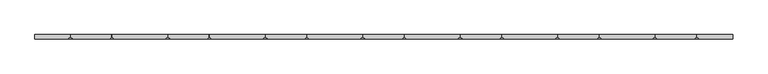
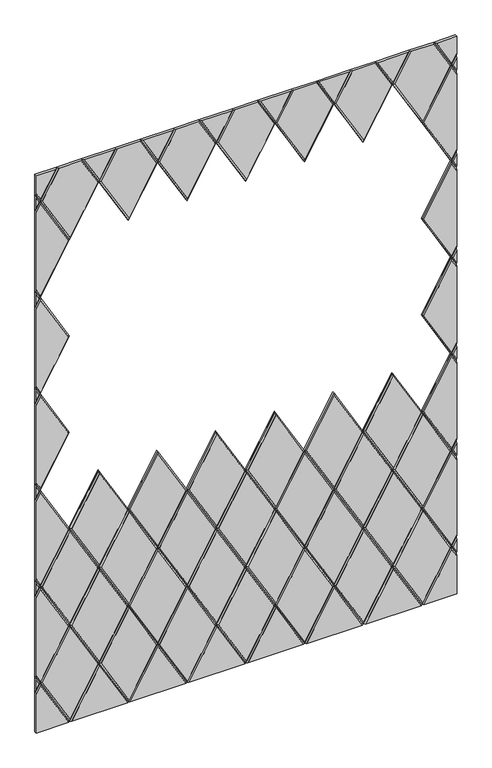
"""IFC4 building model written with IfcOpenShell, lengths in millimetres: proxy geometry, Wall_Cissu 7.3dm."""

from ifc_helpers import new_model, si_unit, origin, place, context, project, spatial, faceted_brep, source, transform, mapped, element, save


def generic_models_ffa9f1a6(model_context):
    return source(origin(), model_context, "Body", "Brep", [
        faceted_brep([(9016.0, 6.0, 2800.0), (9117.0188674, 6.0, 2800.0), (9037.1381137, 6.0, 2661.642476), (9016.0, 6.0, 2698.2547628), (9016.0, 0.0, 2698.2547628), (9037.1381137, 0.0, 2661.642476), (9016.0, -6.0, 2710.2547628), (9037.1381137, -6.0, 2673.642476), (9016.0, -6.0, 2800.0), (9110.0906642, -6.0, 2800.0), (9117.0188674, 0.0, 2800.0)], [[[0, 1, 2, 3]], [[4, 3, 2, 5]], [[6, 4, 5, 7]], [[8, 9, 10, 1, 0]], [[10, 5, 2, 1]], [[8, 6, 7, 9]], [[9, 7, 5, 10]], [[0, 3, 4, 6, 8]]]),
        faceted_brep([(9236.6573599, 6.0, 2800.0), (9396.4188674, 6.0, 2800.0), (9316.5381137, 6.0, 2661.642476), (9316.5381137, 0.0, 2661.642476), (9236.6573599, 0.0, 2800.0), (9396.4188674, 0.0, 2800.0), (9243.5855632, -6.0, 2800.0), (9316.5381137, -6.0, 2673.642476), (9389.4906642, -6.0, 2800.0)], [[[0, 1, 2]], [[0, 2, 3, 4]], [[5, 3, 2, 1]], [[6, 7, 8]], [[4, 3, 7, 6]], [[8, 7, 3, 5]], [[0, 4, 6, 8, 5, 1]]]),
        faceted_brep([(9516.0573599, 6.0, 2800.0), (9675.8188674, 6.0, 2800.0), (9595.9381137, 6.0, 2661.642476), (9595.9381137, 0.0, 2661.642476), (9516.0573599, 0.0, 2800.0), (9675.8188674, 0.0, 2800.0), (9522.9855632, -6.0, 2800.0), (9595.9381137, -6.0, 2673.642476), (9668.8906642, -6.0, 2800.0)], [[[0, 1, 2]], [[0, 2, 3, 4]], [[5, 3, 2, 1]], [[6, 7, 8]], [[4, 3, 7, 6]], [[8, 7, 3, 5]], [[0, 4, 6, 8, 5, 1]]]),
        faceted_brep([(9795.4573599, 6.0, 2800.0), (9955.2188674, 6.0, 2800.0), (9875.3381137, 6.0, 2661.642476), (9875.3381137, 0.0, 2661.642476), (9795.4573599, 0.0, 2800.0), (9955.2188674, 0.0, 2800.0), (9802.3855632, -6.0, 2800.0), (9875.3381137, -6.0, 2673.642476), (9948.2906642, -6.0, 2800.0)], [[[0, 1, 2]], [[0, 2, 3, 4]], [[5, 3, 2, 1]], [[6, 7, 8]], [[4, 3, 7, 6]], [[8, 7, 3, 5]], [[0, 4, 6, 8, 5, 1]]]),
        faceted_brep([(10074.8573599, 6.0, 2800.0), (10234.6188674, 6.0, 2800.0), (10154.7381137, 6.0, 2661.642476), (10154.7381137, 0.0, 2661.642476), (10074.8573599, 0.0, 2800.0), (10234.6188674, 0.0, 2800.0), (10081.7855632, -6.0, 2800.0), (10154.7381137, -6.0, 2673.642476), (10227.6906642, -6.0, 2800.0)], [[[0, 1, 2]], [[0, 2, 3, 4]], [[5, 3, 2, 1]], [[6, 7, 8]], [[4, 3, 7, 6]], [[8, 7, 3, 5]], [[0, 4, 6, 8, 5, 1]]]),
        faceted_brep([(10354.2573599, 6.0, 2800.0), (10514.0188674, 6.0, 2800.0), (10434.1381137, 6.0, 2661.642476), (10434.1381137, 0.0, 2661.642476), (10354.2573599, 0.0, 2800.0), (10514.0188674, 0.0, 2800.0), (10361.1855632, -6.0, 2800.0), (10434.1381137, -6.0, 2673.642476), (10507.0906642, -6.0, 2800.0)], [[[0, 1, 2]], [[0, 2, 3, 4]], [[5, 3, 2, 1]], [[6, 7, 8]], [[4, 3, 7, 6]], [[8, 7, 3, 5]], [[0, 4, 6, 8, 5, 1]]]),
        faceted_brep([(10633.6573599, 6.0, 2800.0), (10793.4188674, 6.0, 2800.0), (10713.5381137, 6.0, 2661.642476), (10713.5381137, 0.0, 2661.642476), (10633.6573599, 0.0, 2800.0), (10793.4188674, 0.0, 2800.0), (10640.5855632, -6.0, 2800.0), (10713.5381137, -6.0, 2673.642476), (10786.4906642, -6.0, 2800.0)], [[[0, 1, 2]], [[0, 2, 3, 4]], [[5, 3, 2, 1]], [[6, 7, 8]], [[4, 3, 7, 6]], [[8, 7, 3, 5]], [[0, 4, 6, 8, 5, 1]]]),
        faceted_brep([(11016.0, 6.0, 2701.5868349), (10992.9381137, 6.0, 2661.642476), (10913.0573599, 6.0, 2800.0), (11016.0, 6.0, 2800.0), (11016.0, 0.0, 2701.5868349), (10992.9381137, 0.0, 2661.642476), (11016.0, -6.0, 2713.5868349), (10992.9381137, -6.0, 2673.642476), (10919.9855632, -6.0, 2800.0), (11016.0, -6.0, 2800.0), (10913.0573599, 0.0, 2800.0)], [[[0, 1, 2, 3]], [[0, 4, 5, 1]], [[4, 6, 7, 5]], [[8, 9, 3, 2, 10]], [[2, 1, 5, 10]], [[8, 7, 6, 9]], [[10, 5, 7, 8]], [[0, 3, 9, 6, 4]]]),
        faceted_brep([(9016.0, 6.0, 2625.0301892), (9037.1381137, 6.0, 2661.642476), (9176.8381137, 6.0, 2419.6749782), (9037.1381137, 6.0, 2177.7074804), (9016.0, 6.0, 2214.3197672), (9016.0, 0.0, 2214.3197672), (9037.1381137, 0.0, 2177.7074804), (9176.8381137, 0.0, 2419.6749782), (9037.1381137, 0.0, 2661.642476), (9016.0, 0.0, 2625.0301892), (9016.0, -6.0, 2613.0301892), (9016.0, -6.0, 2226.3197672), (9037.1381137, -6.0, 2189.7074804), (9169.9099104, -6.0, 2419.6749782), (9037.1381137, -6.0, 2649.642476)], [[[0, 1, 2, 3, 4]], [[5, 4, 3, 6]], [[6, 3, 2, 7]], [[7, 2, 1, 8]], [[0, 9, 8, 1]], [[10, 11, 12, 13, 14]], [[11, 5, 6, 12]], [[6, 7, 13, 12]], [[7, 8, 14, 13]], [[9, 10, 14, 8]], [[0, 4, 5, 11, 10, 9]]]),
        faceted_brep([(11016.0, 6.0, 2217.6518392), (10992.9381137, 6.0, 2177.7074804), (10853.2381137, 6.0, 2419.6749782), (10992.9381137, 6.0, 2661.642476), (11016.0, 6.0, 2621.6981171), (10853.2381137, 0.0, 2419.6749782), (10992.9381137, 0.0, 2177.7074804), (11016.0, 0.0, 2217.6518392), (11016.0, 0.0, 2621.6981171), (10992.9381137, 0.0, 2661.642476), (11016.0, -6.0, 2229.6518392), (11016.0, -6.0, 2609.6981171), (10992.9381137, -6.0, 2649.642476), (10860.1663169, -6.0, 2419.6749782), (10992.9381137, -6.0, 2189.7074804)], [[[0, 1, 2, 3, 4]], [[5, 2, 1, 6]], [[0, 7, 6, 1]], [[8, 4, 3, 9]], [[9, 3, 2, 5]], [[10, 11, 12, 13, 14]], [[5, 6, 14, 13]], [[7, 10, 14, 6]], [[11, 8, 9, 12]], [[9, 5, 13, 12]], [[0, 4, 8, 11, 10, 7]]]),
        faceted_brep([(9016.0, 6.0, 2698.2547628), (9037.1381137, 6.0, 2661.642476), (9016.0, 6.0, 2625.0301892), (9016.0, 0.0, 2625.0301892), (9037.1381137, 0.0, 2661.642476), (9016.0, 0.0, 2698.2547628), (9016.0, -6.0, 2686.2547628), (9016.0, -6.0, 2637.0301892), (9030.2099104, -6.0, 2661.642476)], [[[0, 1, 2]], [[3, 2, 1, 4]], [[0, 5, 4, 1]], [[6, 7, 8]], [[7, 3, 4, 8]], [[5, 6, 8, 4]], [[0, 2, 3, 7, 6, 5]]]),
        faceted_brep([(11016.0, 6.0, 2621.6981171), (10992.9381137, 6.0, 2661.642476), (11016.0, 6.0, 2701.5868349), (11016.0, 0.0, 2621.6981171), (10992.9381137, 0.0, 2661.642476), (11016.0, 0.0, 2701.5868349), (11016.0, -6.0, 2633.6981171), (11016.0, -6.0, 2689.5868349), (10999.8663169, -6.0, 2661.642476)], [[[0, 1, 2]], [[0, 3, 4, 1]], [[5, 2, 1, 4]], [[6, 7, 8]], [[3, 6, 8, 4]], [[7, 5, 4, 8]], [[0, 2, 5, 7, 6, 3]]]),
        faceted_brep([(11016.0, 6.0, 2137.7631215), (10992.9381137, 6.0, 2177.7074804), (11016.0, 6.0, 2217.6518392), (11016.0, 0.0, 2137.7631215), (10992.9381137, 0.0, 2177.7074804), (11016.0, 0.0, 2217.6518392), (11016.0, -6.0, 2149.7631215), (11016.0, -6.0, 2205.6518392), (10999.8663169, -6.0, 2177.7074804)], [[[0, 1, 2]], [[0, 3, 4, 1]], [[5, 2, 1, 4]], [[6, 7, 8]], [[3, 6, 8, 4]], [[7, 5, 4, 8]], [[0, 2, 5, 7, 6, 3]]]),
        faceted_brep([(9016.0, 6.0, 2214.3197672), (9037.1381137, 6.0, 2177.7074804), (9016.0, 6.0, 2141.0951935), (9016.0, 0.0, 2141.0951935), (9037.1381137, 0.0, 2177.7074804), (9016.0, 0.0, 2214.3197672), (9016.0, -6.0, 2202.3197672), (9016.0, -6.0, 2153.0951935), (9030.2099104, -6.0, 2177.7074804)], [[[0, 1, 2]], [[3, 2, 1, 4]], [[0, 5, 4, 1]], [[6, 7, 8]], [[7, 3, 4, 8]], [[5, 6, 8, 4]], [[0, 2, 3, 7, 6, 5]]]),
        faceted_brep([(9016.0, 6.0, 2141.0951935), (9037.1381137, 6.0, 2177.7074804), (9176.8381137, 6.0, 1935.7399825), (9037.1381137, 6.0, 1693.7724847), (9016.0, 6.0, 1730.3847716), (9016.0, 0.0, 1730.3847716), (9037.1381137, 0.0, 1693.7724847), (9176.8381137, 0.0, 1935.7399825), (9037.1381137, 0.0, 2177.7074804), (9016.0, 0.0, 2141.0951935), (9016.0, -6.0, 2129.0951935), (9016.0, -6.0, 1742.3847716), (9037.1381137, -6.0, 1705.7724847), (9169.9099104, -6.0, 1935.7399825), (9037.1381137, -6.0, 2165.7074804)], [[[0, 1, 2, 3, 4]], [[5, 4, 3, 6]], [[6, 3, 2, 7]], [[7, 2, 1, 8]], [[0, 9, 8, 1]], [[10, 11, 12, 13, 14]], [[11, 5, 6, 12]], [[6, 7, 13, 12]], [[7, 8, 14, 13]], [[9, 10, 14, 8]], [[0, 4, 5, 11, 10, 9]]]),
        faceted_brep([(11016.0, 6.0, 1733.7168436), (10992.9381137, 6.0, 1693.7724847), (10853.2381137, 6.0, 1935.7399825), (10992.9381137, 6.0, 2177.7074804), (11016.0, 6.0, 2137.7631215), (10853.2381137, 0.0, 1935.7399825), (10992.9381137, 0.0, 1693.7724847), (11016.0, 0.0, 1733.7168436), (11016.0, 0.0, 2137.7631215), (10992.9381137, 0.0, 2177.7074804), (11016.0, -6.0, 1745.7168436), (11016.0, -6.0, 2125.7631215), (10992.9381137, -6.0, 2165.7074804), (10860.1663169, -6.0, 1935.7399825), (10992.9381137, -6.0, 1705.7724847)], [[[0, 1, 2, 3, 4]], [[5, 2, 1, 6]], [[0, 7, 6, 1]], [[8, 4, 3, 9]], [[9, 3, 2, 5]], [[10, 11, 12, 13, 14]], [[5, 6, 14, 13]], [[7, 10, 14, 6]], [[11, 8, 9, 12]], [[9, 5, 13, 12]], [[0, 4, 8, 11, 10, 7]]]),
        faceted_brep([(9016.0, 6.0, 1657.1601979), (9037.1381137, 6.0, 1693.7724847), (9176.8381137, 6.0, 1451.8049869), (9037.1381137, 6.0, 1209.8374891), (9016.0, 6.0, 1246.4497759), (9016.0, 0.0, 1246.4497759), (9037.1381137, 0.0, 1209.8374891), (9176.8381137, 0.0, 1451.8049869), (9037.1381137, 0.0, 1693.7724847), (9016.0, 0.0, 1657.1601979), (9016.0, -6.0, 1645.1601979), (9016.0, -6.0, 1258.4497759), (9037.1381137, -6.0, 1221.8374891), (9169.9099104, -6.0, 1451.8049869), (9037.1381137, -6.0, 1681.7724847)], [[[0, 1, 2, 3, 4]], [[5, 4, 3, 6]], [[6, 3, 2, 7]], [[7, 2, 1, 8]], [[0, 9, 8, 1]], [[10, 11, 12, 13, 14]], [[11, 5, 6, 12]], [[6, 7, 13, 12]], [[7, 8, 14, 13]], [[9, 10, 14, 8]], [[0, 4, 5, 11, 10, 9]]]),
        faceted_brep([(11016.0, 6.0, 1249.781848), (10992.9381137, 6.0, 1209.8374891), (10853.2381137, 6.0, 1451.8049869), (10992.9381137, 6.0, 1693.7724847), (11016.0, 6.0, 1653.8281259), (10853.2381137, 0.0, 1451.8049869), (10992.9381137, 0.0, 1209.8374891), (11016.0, 0.0, 1249.781848), (11016.0, 0.0, 1653.8281259), (10992.9381137, 0.0, 1693.7724847), (11016.0, -6.0, 1261.781848), (11016.0, -6.0, 1641.8281259), (10992.9381137, -6.0, 1681.7724847), (10860.1663169, -6.0, 1451.8049869), (10992.9381137, -6.0, 1221.8374891)], [[[0, 1, 2, 3, 4]], [[5, 2, 1, 6]], [[0, 7, 6, 1]], [[8, 4, 3, 9]], [[9, 3, 2, 5]], [[10, 11, 12, 13, 14]], [[5, 6, 14, 13]], [[7, 10, 14, 6]], [[11, 8, 9, 12]], [[9, 5, 13, 12]], [[0, 4, 8, 11, 10, 7]]]),
        faceted_brep([(9016.0, 6.0, 1730.3847716), (9037.1381137, 6.0, 1693.7724847), (9016.0, 6.0, 1657.1601979), (9016.0, 0.0, 1657.1601979), (9037.1381137, 0.0, 1693.7724847), (9016.0, 0.0, 1730.3847716), (9016.0, -6.0, 1718.3847716), (9016.0, -6.0, 1669.1601979), (9030.2099104, -6.0, 1693.7724847)], [[[0, 1, 2]], [[3, 2, 1, 4]], [[0, 5, 4, 1]], [[6, 7, 8]], [[7, 3, 4, 8]], [[5, 6, 8, 4]], [[0, 2, 3, 7, 6, 5]]]),
        faceted_brep([(11016.0, 6.0, 1653.8281259), (10992.9381137, 6.0, 1693.7724847), (11016.0, 6.0, 1733.7168436), (11016.0, 0.0, 1653.8281259), (10992.9381137, 0.0, 1693.7724847), (11016.0, 0.0, 1733.7168436), (11016.0, -6.0, 1665.8281259), (11016.0, -6.0, 1721.7168436), (10999.8663169, -6.0, 1693.7724847)], [[[0, 1, 2]], [[0, 3, 4, 1]], [[5, 2, 1, 4]], [[6, 7, 8]], [[3, 6, 8, 4]], [[7, 5, 4, 8]], [[0, 2, 5, 7, 6, 3]]]),
        faceted_brep([(11016.0, 6.0, 1169.8931302), (10992.9381137, 6.0, 1209.8374891), (11016.0, 6.0, 1249.781848), (11016.0, 0.0, 1169.8931302), (10992.9381137, 0.0, 1209.8374891), (11016.0, 0.0, 1249.781848), (11016.0, -6.0, 1181.8931302), (11016.0, -6.0, 1237.781848), (10999.8663169, -6.0, 1209.8374891)], [[[0, 1, 2]], [[0, 3, 4, 1]], [[5, 2, 1, 4]], [[6, 7, 8]], [[3, 6, 8, 4]], [[7, 5, 4, 8]], [[0, 2, 5, 7, 6, 3]]]),
        faceted_brep([(9016.0, 6.0, 1246.4497759), (9037.1381137, 6.0, 1209.8374891), (9016.0, 6.0, 1173.2252023), (9016.0, 0.0, 1173.2252023), (9037.1381137, 0.0, 1209.8374891), (9016.0, 0.0, 1246.4497759), (9016.0, -6.0, 1234.4497759), (9016.0, -6.0, 1185.2252023), (9030.2099104, -6.0, 1209.8374891)], [[[0, 1, 2]], [[3, 2, 1, 4]], [[0, 5, 4, 1]], [[6, 7, 8]], [[7, 3, 4, 8]], [[5, 6, 8, 4]], [[0, 2, 3, 7, 6, 5]]]),
        faceted_brep([(9016.0, 6.0, 1173.2252023), (9037.1381137, 6.0, 1209.8374891), (9176.8381137, 6.0, 967.8699913), (9037.1381137, 6.0, 725.9024935), (9016.0, 6.0, 762.5147803), (9016.0, 0.0, 762.5147803), (9037.1381137, 0.0, 725.9024935), (9176.8381137, 0.0, 967.8699913), (9037.1381137, 0.0, 1209.8374891), (9016.0, 0.0, 1173.2252023), (9016.0, -6.0, 1161.2252023), (9016.0, -6.0, 774.5147803), (9037.1381137, -6.0, 737.9024935), (9169.9099104, -6.0, 967.8699913), (9037.1381137, -6.0, 1197.8374891)], [[[0, 1, 2, 3, 4]], [[5, 4, 3, 6]], [[6, 3, 2, 7]], [[7, 2, 1, 8]], [[0, 9, 8, 1]], [[10, 11, 12, 13, 14]], [[11, 5, 6, 12]], [[6, 7, 13, 12]], [[7, 8, 14, 13]], [[9, 10, 14, 8]], [[0, 4, 5, 11, 10, 9]]]),
        faceted_brep([(11016.0, 6.0, 765.8468523), (10992.9381137, 6.0, 725.9024935), (10853.2381137, 6.0, 967.8699913), (10992.9381137, 6.0, 1209.8374891), (11016.0, 6.0, 1169.8931302), (10853.2381137, 0.0, 967.8699913), (10992.9381137, 0.0, 725.9024935), (11016.0, 0.0, 765.8468523), (11016.0, 0.0, 1169.8931302), (10992.9381137, 0.0, 1209.8374891), (11016.0, -6.0, 777.8468523), (11016.0, -6.0, 1157.8931302), (10992.9381137, -6.0, 1197.8374891), (10860.1663169, -6.0, 967.8699913), (10992.9381137, -6.0, 737.9024935)], [[[0, 1, 2, 3, 4]], [[5, 2, 1, 6]], [[0, 7, 6, 1]], [[8, 4, 3, 9]], [[9, 3, 2, 5]], [[10, 11, 12, 13, 14]], [[5, 6, 14, 13]], [[7, 10, 14, 6]], [[11, 8, 9, 12]], [[9, 5, 13, 12]], [[0, 4, 8, 11, 10, 7]]]),
        faceted_brep([(9016.0, 6.0, 689.2902066), (9037.1381137, 6.0, 725.9024935), (9176.8381137, 6.0, 483.9349956), (9037.1381137, 6.0, 241.9674978), (9016.0, 6.0, 278.5797846), (9016.0, 0.0, 278.5797846), (9037.1381137, 0.0, 241.9674978), (9176.8381137, 0.0, 483.9349956), (9037.1381137, 0.0, 725.9024935), (9016.0, 0.0, 689.2902066), (9016.0, -6.0, 677.2902066), (9016.0, -6.0, 290.5797846), (9037.1381137, -6.0, 253.9674978), (9169.9099104, -6.0, 483.9349956), (9037.1381137, -6.0, 713.9024935)], [[[0, 1, 2, 3, 4]], [[5, 4, 3, 6]], [[6, 3, 2, 7]], [[7, 2, 1, 8]], [[0, 9, 8, 1]], [[10, 11, 12, 13, 14]], [[11, 5, 6, 12]], [[6, 7, 13, 12]], [[7, 8, 14, 13]], [[9, 10, 14, 8]], [[0, 4, 5, 11, 10, 9]]]),
        faceted_brep([(11016.0, 6.0, 281.9118567), (10992.9381137, 6.0, 241.9674978), (10853.2381137, 6.0, 483.9349956), (10992.9381137, 6.0, 725.9024935), (11016.0, 6.0, 685.9581346), (10853.2381137, 0.0, 483.9349956), (10992.9381137, 0.0, 241.9674978), (11016.0, 0.0, 281.9118567), (11016.0, 0.0, 685.9581346), (10992.9381137, 0.0, 725.9024935), (11016.0, -6.0, 293.9118567), (11016.0, -6.0, 673.9581346), (10992.9381137, -6.0, 713.9024935), (10860.1663169, -6.0, 483.9349956), (10992.9381137, -6.0, 253.9674978)], [[[0, 1, 2, 3, 4]], [[5, 2, 1, 6]], [[0, 7, 6, 1]], [[8, 4, 3, 9]], [[9, 3, 2, 5]], [[10, 11, 12, 13, 14]], [[5, 6, 14, 13]], [[7, 10, 14, 6]], [[11, 8, 9, 12]], [[9, 5, 13, 12]], [[0, 4, 8, 11, 10, 7]]]),
        faceted_brep([(9016.0, 6.0, 762.5147803), (9037.1381137, 6.0, 725.9024935), (9016.0, 6.0, 689.2902066), (9016.0, 0.0, 689.2902066), (9037.1381137, 0.0, 725.9024935), (9016.0, 0.0, 762.5147803), (9016.0, -6.0, 750.5147803), (9016.0, -6.0, 701.2902066), (9030.2099104, -6.0, 725.9024935)], [[[0, 1, 2]], [[3, 2, 1, 4]], [[0, 5, 4, 1]], [[6, 7, 8]], [[7, 3, 4, 8]], [[5, 6, 8, 4]], [[0, 2, 3, 7, 6, 5]]]),
        faceted_brep([(11016.0, 6.0, 685.9581346), (10992.9381137, 6.0, 725.9024935), (11016.0, 6.0, 765.8468523), (11016.0, 0.0, 685.9581346), (10992.9381137, 0.0, 725.9024935), (11016.0, 0.0, 765.8468523), (11016.0, -6.0, 697.9581346), (11016.0, -6.0, 753.8468523), (10999.8663169, -6.0, 725.9024935)], [[[0, 1, 2]], [[0, 3, 4, 1]], [[5, 2, 1, 4]], [[6, 7, 8]], [[3, 6, 8, 4]], [[7, 5, 4, 8]], [[0, 2, 5, 7, 6, 3]]]),
        faceted_brep([(11016.0, 6.0, 202.023139), (10992.9381137, 6.0, 241.9674978), (11016.0, 6.0, 281.9118567), (11016.0, 0.0, 202.023139), (10992.9381137, 0.0, 241.9674978), (11016.0, 0.0, 281.9118567), (11016.0, -6.0, 214.023139), (11016.0, -6.0, 269.9118567), (10999.8663169, -6.0, 241.9674978)], [[[0, 1, 2]], [[0, 3, 4, 1]], [[5, 2, 1, 4]], [[6, 7, 8]], [[3, 6, 8, 4]], [[7, 5, 4, 8]], [[0, 2, 5, 7, 6, 3]]]),
        faceted_brep([(9016.0, 6.0, 278.5797846), (9037.1381137, 6.0, 241.9674978), (9016.0, 6.0, 205.355211), (9016.0, 0.0, 205.355211), (9037.1381137, 0.0, 241.9674978), (9016.0, 0.0, 278.5797846), (9016.0, -6.0, 266.5797846), (9016.0, -6.0, 217.355211), (9030.2099104, -6.0, 241.9674978)], [[[0, 1, 2]], [[3, 2, 1, 4]], [[0, 5, 4, 1]], [[6, 7, 8]], [[7, 3, 4, 8]], [[5, 6, 8, 4]], [[0, 2, 3, 7, 6, 5]]]),
        faceted_brep([(9016.0, 6.0, 205.355211), (9037.1381137, 6.0, 241.9674978), (9176.8381137, 6.0, 0.0), (9016.0, 6.0, 0.0), (9176.8381137, 0.0, 0.0), (9037.1381137, 0.0, 241.9674978), (9016.0, 0.0, 205.355211), (9016.0, -6.0, 0.0), (9169.9099104, -6.0, 0.0), (9037.1381137, -6.0, 229.9674978), (9016.0, -6.0, 193.355211)], [[[0, 1, 2, 3]], [[4, 2, 1, 5]], [[0, 6, 5, 1]], [[7, 8, 9, 10]], [[4, 5, 9, 8]], [[6, 10, 9, 5]], [[7, 3, 2, 4, 8]], [[0, 3, 7, 10, 6]]]),
        faceted_brep([(9176.8381137, 6.0, 0.0), (9316.5381137, 6.0, 241.9674978), (9456.2381137, 6.0, 0.0), (9456.2381137, 0.0, 0.0), (9316.5381137, 0.0, 241.9674978), (9176.8381137, 0.0, 0.0), (9183.7663169, -6.0, 0.0), (9449.3099104, -6.0, 0.0), (9316.5381137, -6.0, 229.9674978)], [[[0, 1, 2]], [[3, 2, 1, 4]], [[4, 1, 0, 5]], [[6, 7, 8]], [[3, 4, 8, 7]], [[4, 5, 6, 8]], [[0, 2, 3, 7, 6, 5]]]),
        faceted_brep([(9456.2381137, 6.0, 0.0), (9595.9381137, 6.0, 241.9674978), (9735.6381137, 6.0, 0.0), (9735.6381137, 0.0, 0.0), (9595.9381137, 0.0, 241.9674978), (9456.2381137, 0.0, 0.0), (9463.1663169, -6.0, 0.0), (9728.7099104, -6.0, 0.0), (9595.9381137, -6.0, 229.9674978)], [[[0, 1, 2]], [[3, 2, 1, 4]], [[4, 1, 0, 5]], [[6, 7, 8]], [[3, 4, 8, 7]], [[4, 5, 6, 8]], [[0, 2, 3, 7, 6, 5]]]),
        faceted_brep([(9735.6381137, 6.0, 0.0), (9875.3381137, 6.0, 241.9674978), (10015.0381137, 6.0, 0.0), (10015.0381137, 0.0, 0.0), (9875.3381137, 0.0, 241.9674978), (9735.6381137, 0.0, 0.0), (9742.5663169, -6.0, 0.0), (10008.1099104, -6.0, 0.0), (9875.3381137, -6.0, 229.9674978)], [[[0, 1, 2]], [[3, 2, 1, 4]], [[4, 1, 0, 5]], [[6, 7, 8]], [[3, 4, 8, 7]], [[4, 5, 6, 8]], [[0, 2, 3, 7, 6, 5]]]),
        faceted_brep([(10015.0381137, 6.0, 0.0), (10154.7381137, 6.0, 241.9674978), (10294.4381137, 6.0, 0.0), (10294.4381137, 0.0, 0.0), (10154.7381137, 0.0, 241.9674978), (10015.0381137, 0.0, 0.0), (10021.9663169, -6.0, 0.0), (10287.5099104, -6.0, 0.0), (10154.7381137, -6.0, 229.9674978)], [[[0, 1, 2]], [[3, 2, 1, 4]], [[4, 1, 0, 5]], [[6, 7, 8]], [[3, 4, 8, 7]], [[4, 5, 6, 8]], [[0, 2, 3, 7, 6, 5]]]),
        faceted_brep([(10294.4381137, 6.0, 0.0), (10434.1381137, 6.0, 241.9674978), (10573.8381137, 6.0, 0.0), (10573.8381137, 0.0, 0.0), (10434.1381137, 0.0, 241.9674978), (10294.4381137, 0.0, 0.0), (10301.3663169, -6.0, 0.0), (10566.9099104, -6.0, 0.0), (10434.1381137, -6.0, 229.9674978)], [[[0, 1, 2]], [[3, 2, 1, 4]], [[4, 1, 0, 5]], [[6, 7, 8]], [[3, 4, 8, 7]], [[4, 5, 6, 8]], [[0, 2, 3, 7, 6, 5]]]),
        faceted_brep([(10573.8381137, 6.0, 0.0), (10713.5381137, 6.0, 241.9674978), (10853.2381137, 6.0, 0.0), (10853.2381137, 0.0, 0.0), (10713.5381137, 0.0, 241.9674978), (10573.8381137, 0.0, 0.0), (10580.7663169, -6.0, 0.0), (10846.3099104, -6.0, 0.0), (10713.5381137, -6.0, 229.9674978)], [[[0, 1, 2]], [[3, 2, 1, 4]], [[4, 1, 0, 5]], [[6, 7, 8]], [[3, 4, 8, 7]], [[4, 5, 6, 8]], [[0, 2, 3, 7, 6, 5]]]),
        faceted_brep([(11016.0, 6.0, 0.0), (10853.2381137, 6.0, 0.0), (10992.9381137, 6.0, 241.9674978), (11016.0, 6.0, 202.023139), (11016.0, 0.0, 202.023139), (10992.9381137, 0.0, 241.9674978), (10853.2381137, 0.0, 0.0), (10860.1663169, -6.0, 0.0), (11016.0, -6.0, 0.0), (11016.0, -6.0, 190.023139), (10992.9381137, -6.0, 229.9674978)], [[[0, 1, 2, 3]], [[4, 3, 2, 5]], [[5, 2, 1, 6]], [[7, 8, 9, 10]], [[9, 4, 5, 10]], [[5, 6, 7, 10]], [[7, 6, 1, 0, 8]], [[0, 3, 4, 9, 8]]]),
        faceted_brep([(9037.1381137, 0.0, 2661.642476), (9037.1381137, 6.0, 2661.642476), (9176.8381137, 6.0, 2419.6749782), (9176.8381137, 0.0, 2419.6749782), (9316.5381137, 6.0, 2661.642476), (9316.5381137, 0.0, 2661.642476), (9176.8381137, -6.0, 2431.6749782), (9044.0663169, -6.0, 2661.642476), (9309.6099104, -6.0, 2661.642476), (9117.0188674, 6.0, 2800.0), (9236.6573599, 6.0, 2800.0), (9236.6573599, 0.0, 2800.0), (9117.0188674, 0.0, 2800.0), (9123.9470706, -6.0, 2800.0), (9229.7291567, -6.0, 2800.0)], [[[0, 1, 2, 3]], [[3, 2, 4, 5]], [[0, 3, 6, 7]], [[3, 5, 8, 6]], [[9, 10, 4, 2, 1]], [[11, 5, 4, 10]], [[9, 1, 0, 12]], [[13, 7, 6, 8, 14]], [[14, 8, 5, 11]], [[12, 0, 7, 13]], [[9, 12, 13, 14, 11, 10]]]),
        faceted_brep([(9316.5381137, 0.0, 2661.642476), (9316.5381137, 6.0, 2661.642476), (9456.2381137, 6.0, 2419.6749782), (9456.2381137, 0.0, 2419.6749782), (9595.9381137, 6.0, 2661.642476), (9595.9381137, 0.0, 2661.642476), (9456.2381137, -6.0, 2431.6749782), (9323.4663169, -6.0, 2661.642476), (9589.0099104, -6.0, 2661.642476), (9396.4188674, 6.0, 2800.0), (9516.0573599, 6.0, 2800.0), (9516.0573599, 0.0, 2800.0), (9396.4188674, 0.0, 2800.0), (9403.3470706, -6.0, 2800.0), (9509.1291567, -6.0, 2800.0)], [[[0, 1, 2, 3]], [[3, 2, 4, 5]], [[0, 3, 6, 7]], [[3, 5, 8, 6]], [[9, 10, 4, 2, 1]], [[11, 5, 4, 10]], [[9, 1, 0, 12]], [[13, 7, 6, 8, 14]], [[14, 8, 5, 11]], [[12, 0, 7, 13]], [[9, 12, 13, 14, 11, 10]]]),
        faceted_brep([(9595.9381137, 0.0, 2661.642476), (9595.9381137, 6.0, 2661.642476), (9735.6381137, 6.0, 2419.6749782), (9735.6381137, 0.0, 2419.6749782), (9875.3381137, 6.0, 2661.642476), (9875.3381137, 0.0, 2661.642476), (9735.6381137, -6.0, 2431.6749782), (9602.8663169, -6.0, 2661.642476), (9868.4099104, -6.0, 2661.642476), (9675.8188674, 6.0, 2800.0), (9795.4573599, 6.0, 2800.0), (9795.4573599, 0.0, 2800.0), (9675.8188674, 0.0, 2800.0), (9682.7470706, -6.0, 2800.0), (9788.5291567, -6.0, 2800.0)], [[[0, 1, 2, 3]], [[3, 2, 4, 5]], [[0, 3, 6, 7]], [[3, 5, 8, 6]], [[9, 10, 4, 2, 1]], [[11, 5, 4, 10]], [[9, 1, 0, 12]], [[13, 7, 6, 8, 14]], [[14, 8, 5, 11]], [[12, 0, 7, 13]], [[9, 12, 13, 14, 11, 10]]]),
        faceted_brep([(9875.3381137, 0.0, 2661.642476), (9875.3381137, 6.0, 2661.642476), (10015.0381137, 6.0, 2419.6749782), (10015.0381137, 0.0, 2419.6749782), (10154.7381137, 6.0, 2661.642476), (10154.7381137, 0.0, 2661.642476), (10015.0381137, -6.0, 2431.6749782), (9882.2663169, -6.0, 2661.642476), (10147.8099104, -6.0, 2661.642476), (9955.2188674, 6.0, 2800.0), (10074.8573599, 6.0, 2800.0), (10074.8573599, 0.0, 2800.0), (9955.2188674, 0.0, 2800.0), (9962.1470706, -6.0, 2800.0), (10067.9291567, -6.0, 2800.0)], [[[0, 1, 2, 3]], [[3, 2, 4, 5]], [[0, 3, 6, 7]], [[3, 5, 8, 6]], [[9, 10, 4, 2, 1]], [[11, 5, 4, 10]], [[9, 1, 0, 12]], [[13, 7, 6, 8, 14]], [[14, 8, 5, 11]], [[12, 0, 7, 13]], [[9, 12, 13, 14, 11, 10]]]),
        faceted_brep([(10154.7381137, 0.0, 2661.642476), (10154.7381137, 6.0, 2661.642476), (10294.4381137, 6.0, 2419.6749782), (10294.4381137, 0.0, 2419.6749782), (10434.1381137, 6.0, 2661.642476), (10434.1381137, 0.0, 2661.642476), (10294.4381137, -6.0, 2431.6749782), (10161.6663169, -6.0, 2661.642476), (10427.2099104, -6.0, 2661.642476), (10234.6188674, 6.0, 2800.0), (10354.2573599, 6.0, 2800.0), (10354.2573599, 0.0, 2800.0), (10234.6188674, 0.0, 2800.0), (10241.5470706, -6.0, 2800.0), (10347.3291567, -6.0, 2800.0)], [[[0, 1, 2, 3]], [[3, 2, 4, 5]], [[0, 3, 6, 7]], [[3, 5, 8, 6]], [[9, 10, 4, 2, 1]], [[11, 5, 4, 10]], [[9, 1, 0, 12]], [[13, 7, 6, 8, 14]], [[14, 8, 5, 11]], [[12, 0, 7, 13]], [[9, 12, 13, 14, 11, 10]]]),
        faceted_brep([(10434.1381137, 0.0, 2661.642476), (10434.1381137, 6.0, 2661.642476), (10573.8381137, 6.0, 2419.6749782), (10573.8381137, 0.0, 2419.6749782), (10713.5381137, 6.0, 2661.642476), (10713.5381137, 0.0, 2661.642476), (10573.8381137, -6.0, 2431.6749782), (10441.0663169, -6.0, 2661.642476), (10706.6099104, -6.0, 2661.642476), (10514.0188674, 6.0, 2800.0), (10633.6573599, 6.0, 2800.0), (10633.6573599, 0.0, 2800.0), (10514.0188674, 0.0, 2800.0), (10520.9470706, -6.0, 2800.0), (10626.7291567, -6.0, 2800.0)], [[[0, 1, 2, 3]], [[3, 2, 4, 5]], [[0, 3, 6, 7]], [[3, 5, 8, 6]], [[9, 10, 4, 2, 1]], [[11, 5, 4, 10]], [[9, 1, 0, 12]], [[13, 7, 6, 8, 14]], [[14, 8, 5, 11]], [[12, 0, 7, 13]], [[9, 12, 13, 14, 11, 10]]]),
        faceted_brep([(10713.5381137, 0.0, 2661.642476), (10713.5381137, 6.0, 2661.642476), (10853.2381137, 6.0, 2419.6749782), (10853.2381137, 0.0, 2419.6749782), (10992.9381137, 6.0, 2661.642476), (10992.9381137, 0.0, 2661.642476), (10853.2381137, -6.0, 2431.6749782), (10720.4663169, -6.0, 2661.642476), (10986.0099104, -6.0, 2661.642476), (10793.4188674, 6.0, 2800.0), (10913.0573599, 6.0, 2800.0), (10913.0573599, 0.0, 2800.0), (10793.4188674, 0.0, 2800.0), (10800.3470706, -6.0, 2800.0), (10906.1291567, -6.0, 2800.0)], [[[0, 1, 2, 3]], [[3, 2, 4, 5]], [[0, 3, 6, 7]], [[3, 5, 8, 6]], [[9, 10, 4, 2, 1]], [[11, 5, 4, 10]], [[9, 1, 0, 12]], [[13, 7, 6, 8, 14]], [[14, 8, 5, 11]], [[12, 0, 7, 13]], [[9, 12, 13, 14, 11, 10]]]),
        faceted_brep([(10713.5381137, 6.0, 241.9674978), (10853.2381137, 6.0, 483.9349956), (10992.9381137, 6.0, 241.9674978), (10853.2381137, 6.0, 0.0), (10713.5381137, 0.0, 241.9674978), (10853.2381137, 0.0, 0.0), (10992.9381137, 0.0, 241.9674978), (10853.2381137, 0.0, 483.9349956), (10986.0099104, -6.0, 241.9674978), (10853.2381137, -6.0, 471.9349956), (10720.4663169, -6.0, 241.9674978), (10853.2381137, -6.0, 12.0)], [[[0, 1, 2, 3]], [[4, 0, 3, 5]], [[5, 3, 2, 6]], [[6, 2, 1, 7]], [[7, 1, 0, 4]], [[8, 9, 10, 11]], [[4, 5, 11, 10]], [[5, 6, 8, 11]], [[6, 7, 9, 8]], [[7, 4, 10, 9]]]),
        faceted_brep([(10434.1381137, 6.0, 241.9674978), (10573.8381137, 6.0, 483.9349956), (10713.5381137, 6.0, 241.9674978), (10573.8381137, 6.0, 0.0), (10434.1381137, 0.0, 241.9674978), (10573.8381137, 0.0, 0.0), (10713.5381137, 0.0, 241.9674978), (10573.8381137, 0.0, 483.9349956), (10706.6099104, -6.0, 241.9674978), (10573.8381137, -6.0, 471.9349956), (10441.0663169, -6.0, 241.9674978), (10573.8381137, -6.0, 12.0)], [[[0, 1, 2, 3]], [[4, 0, 3, 5]], [[5, 3, 2, 6]], [[6, 2, 1, 7]], [[7, 1, 0, 4]], [[8, 9, 10, 11]], [[4, 5, 11, 10]], [[5, 6, 8, 11]], [[6, 7, 9, 8]], [[7, 4, 10, 9]]]),
        faceted_brep([(10154.7381137, 6.0, 241.9674978), (10294.4381137, 6.0, 483.9349956), (10434.1381137, 6.0, 241.9674978), (10294.4381137, 6.0, 0.0), (10154.7381137, 0.0, 241.9674978), (10294.4381137, 0.0, 0.0), (10434.1381137, 0.0, 241.9674978), (10294.4381137, 0.0, 483.9349956), (10427.2099104, -6.0, 241.9674978), (10294.4381137, -6.0, 471.9349956), (10161.6663169, -6.0, 241.9674978), (10294.4381137, -6.0, 12.0)], [[[0, 1, 2, 3]], [[4, 0, 3, 5]], [[5, 3, 2, 6]], [[6, 2, 1, 7]], [[7, 1, 0, 4]], [[8, 9, 10, 11]], [[4, 5, 11, 10]], [[5, 6, 8, 11]], [[6, 7, 9, 8]], [[7, 4, 10, 9]]]),
        faceted_brep([(9875.3381137, 6.0, 241.9674978), (10015.0381137, 6.0, 483.9349956), (10154.7381137, 6.0, 241.9674978), (10015.0381137, 6.0, 0.0), (9875.3381137, 0.0, 241.9674978), (10015.0381137, 0.0, 0.0), (10154.7381137, 0.0, 241.9674978), (10015.0381137, 0.0, 483.9349956), (10147.8099104, -6.0, 241.9674978), (10015.0381137, -6.0, 471.9349956), (9882.2663169, -6.0, 241.9674978), (10015.0381137, -6.0, 12.0)], [[[0, 1, 2, 3]], [[4, 0, 3, 5]], [[5, 3, 2, 6]], [[6, 2, 1, 7]], [[7, 1, 0, 4]], [[8, 9, 10, 11]], [[4, 5, 11, 10]], [[5, 6, 8, 11]], [[6, 7, 9, 8]], [[7, 4, 10, 9]]]),
        faceted_brep([(9595.9381137, 6.0, 241.9674978), (9735.6381137, 6.0, 483.9349956), (9875.3381137, 6.0, 241.9674978), (9735.6381137, 6.0, 0.0), (9595.9381137, 0.0, 241.9674978), (9735.6381137, 0.0, 0.0), (9875.3381137, 0.0, 241.9674978), (9735.6381137, 0.0, 483.9349956), (9868.4099104, -6.0, 241.9674978), (9735.6381137, -6.0, 471.9349956), (9602.8663169, -6.0, 241.9674978), (9735.6381137, -6.0, 12.0)], [[[0, 1, 2, 3]], [[4, 0, 3, 5]], [[5, 3, 2, 6]], [[6, 2, 1, 7]], [[7, 1, 0, 4]], [[8, 9, 10, 11]], [[4, 5, 11, 10]], [[5, 6, 8, 11]], [[6, 7, 9, 8]], [[7, 4, 10, 9]]]),
        faceted_brep([(9316.5381137, 6.0, 241.9674978), (9456.2381137, 6.0, 483.9349956), (9595.9381137, 6.0, 241.9674978), (9456.2381137, 6.0, 0.0), (9316.5381137, 0.0, 241.9674978), (9456.2381137, 0.0, 0.0), (9595.9381137, 0.0, 241.9674978), (9456.2381137, 0.0, 483.9349956), (9589.0099104, -6.0, 241.9674978), (9456.2381137, -6.0, 471.9349956), (9323.4663169, -6.0, 241.9674978), (9456.2381137, -6.0, 12.0)], [[[0, 1, 2, 3]], [[4, 0, 3, 5]], [[5, 3, 2, 6]], [[6, 2, 1, 7]], [[7, 1, 0, 4]], [[8, 9, 10, 11]], [[4, 5, 11, 10]], [[5, 6, 8, 11]], [[6, 7, 9, 8]], [[7, 4, 10, 9]]]),
        faceted_brep([(9037.1381137, 6.0, 241.9674978), (9176.8381137, 6.0, 483.9349956), (9316.5381137, 6.0, 241.9674978), (9176.8381137, 6.0, 0.0), (9037.1381137, 0.0, 241.9674978), (9176.8381137, 0.0, 0.0), (9316.5381137, 0.0, 241.9674978), (9176.8381137, 0.0, 483.9349956), (9309.6099104, -6.0, 241.9674978), (9176.8381137, -6.0, 471.9349956), (9044.0663169, -6.0, 241.9674978), (9176.8381137, -6.0, 12.0)], [[[0, 1, 2, 3]], [[4, 0, 3, 5]], [[5, 3, 2, 6]], [[6, 2, 1, 7]], [[7, 1, 0, 4]], [[8, 9, 10, 11]], [[4, 5, 11, 10]], [[5, 6, 8, 11]], [[6, 7, 9, 8]], [[7, 4, 10, 9]]]),
        faceted_brep([(9037.1381137, 6.0, 725.9024935), (9176.8381137, 6.0, 967.8699913), (9316.5381137, 6.0, 725.9024935), (9176.8381137, 6.0, 483.9349956), (9037.1381137, 0.0, 725.9024935), (9176.8381137, 0.0, 483.9349956), (9316.5381137, 0.0, 725.9024935), (9176.8381137, 0.0, 967.8699913), (9309.6099104, -6.0, 725.9024935), (9176.8381137, -6.0, 955.8699913), (9044.0663169, -6.0, 725.9024935), (9176.8381137, -6.0, 495.9349956)], [[[0, 1, 2, 3]], [[4, 0, 3, 5]], [[5, 3, 2, 6]], [[6, 2, 1, 7]], [[7, 1, 0, 4]], [[8, 9, 10, 11]], [[4, 5, 11, 10]], [[5, 6, 8, 11]], [[6, 7, 9, 8]], [[7, 4, 10, 9]]]),
        faceted_brep([(9316.5381137, 6.0, 725.9024935), (9456.2381137, 6.0, 967.8699913), (9595.9381137, 6.0, 725.9024935), (9456.2381137, 6.0, 483.9349956), (9316.5381137, 0.0, 725.9024935), (9456.2381137, 0.0, 483.9349956), (9595.9381137, 0.0, 725.9024935), (9456.2381137, 0.0, 967.8699913), (9589.0099104, -6.0, 725.9024935), (9456.2381137, -6.0, 955.8699913), (9323.4663169, -6.0, 725.9024935), (9456.2381137, -6.0, 495.9349956)], [[[0, 1, 2, 3]], [[4, 0, 3, 5]], [[5, 3, 2, 6]], [[6, 2, 1, 7]], [[7, 1, 0, 4]], [[8, 9, 10, 11]], [[4, 5, 11, 10]], [[5, 6, 8, 11]], [[6, 7, 9, 8]], [[7, 4, 10, 9]]]),
        faceted_brep([(9595.9381137, 6.0, 725.9024935), (9735.6381137, 6.0, 967.8699913), (9875.3381137, 6.0, 725.9024935), (9735.6381137, 6.0, 483.9349956), (9595.9381137, 0.0, 725.9024935), (9735.6381137, 0.0, 483.9349956), (9875.3381137, 0.0, 725.9024935), (9735.6381137, 0.0, 967.8699913), (9868.4099104, -6.0, 725.9024935), (9735.6381137, -6.0, 955.8699913), (9602.8663169, -6.0, 725.9024935), (9735.6381137, -6.0, 495.9349956)], [[[0, 1, 2, 3]], [[4, 0, 3, 5]], [[5, 3, 2, 6]], [[6, 2, 1, 7]], [[7, 1, 0, 4]], [[8, 9, 10, 11]], [[4, 5, 11, 10]], [[5, 6, 8, 11]], [[6, 7, 9, 8]], [[7, 4, 10, 9]]]),
        faceted_brep([(9875.3381137, 6.0, 725.9024935), (10015.0381137, 6.0, 967.8699913), (10154.7381137, 6.0, 725.9024935), (10015.0381137, 6.0, 483.9349956), (9875.3381137, 0.0, 725.9024935), (10015.0381137, 0.0, 483.9349956), (10154.7381137, 0.0, 725.9024935), (10015.0381137, 0.0, 967.8699913), (10147.8099104, -6.0, 725.9024935), (10015.0381137, -6.0, 955.8699913), (9882.2663169, -6.0, 725.9024935), (10015.0381137, -6.0, 495.9349956)], [[[0, 1, 2, 3]], [[4, 0, 3, 5]], [[5, 3, 2, 6]], [[6, 2, 1, 7]], [[7, 1, 0, 4]], [[8, 9, 10, 11]], [[4, 5, 11, 10]], [[5, 6, 8, 11]], [[6, 7, 9, 8]], [[7, 4, 10, 9]]]),
        faceted_brep([(10154.7381137, 6.0, 725.9024935), (10294.4381137, 6.0, 967.8699913), (10434.1381137, 6.0, 725.9024935), (10294.4381137, 6.0, 483.9349956), (10154.7381137, 0.0, 725.9024935), (10294.4381137, 0.0, 483.9349956), (10434.1381137, 0.0, 725.9024935), (10294.4381137, 0.0, 967.8699913), (10427.2099104, -6.0, 725.9024935), (10294.4381137, -6.0, 955.8699913), (10161.6663169, -6.0, 725.9024935), (10294.4381137, -6.0, 495.9349956)], [[[0, 1, 2, 3]], [[4, 0, 3, 5]], [[5, 3, 2, 6]], [[6, 2, 1, 7]], [[7, 1, 0, 4]], [[8, 9, 10, 11]], [[4, 5, 11, 10]], [[5, 6, 8, 11]], [[6, 7, 9, 8]], [[7, 4, 10, 9]]]),
        faceted_brep([(10434.1381137, 6.0, 725.9024935), (10573.8381137, 6.0, 967.8699913), (10713.5381137, 6.0, 725.9024935), (10573.8381137, 6.0, 483.9349956), (10434.1381137, 0.0, 725.9024935), (10573.8381137, 0.0, 483.9349956), (10713.5381137, 0.0, 725.9024935), (10573.8381137, 0.0, 967.8699913), (10706.6099104, -6.0, 725.9024935), (10573.8381137, -6.0, 955.8699913), (10441.0663169, -6.0, 725.9024935), (10573.8381137, -6.0, 495.9349956)], [[[0, 1, 2, 3]], [[4, 0, 3, 5]], [[5, 3, 2, 6]], [[6, 2, 1, 7]], [[7, 1, 0, 4]], [[8, 9, 10, 11]], [[4, 5, 11, 10]], [[5, 6, 8, 11]], [[6, 7, 9, 8]], [[7, 4, 10, 9]]]),
        faceted_brep([(10713.5381137, 6.0, 725.9024935), (10853.2381137, 6.0, 967.8699913), (10992.9381137, 6.0, 725.9024935), (10853.2381137, 6.0, 483.9349956), (10713.5381137, 0.0, 725.9024935), (10853.2381137, 0.0, 483.9349956), (10992.9381137, 0.0, 725.9024935), (10853.2381137, 0.0, 967.8699913), (10986.0099104, -6.0, 725.9024935), (10853.2381137, -6.0, 955.8699913), (10720.4663169, -6.0, 725.9024935), (10853.2381137, -6.0, 495.9349956)], [[[0, 1, 2, 3]], [[4, 0, 3, 5]], [[5, 3, 2, 6]], [[6, 2, 1, 7]], [[7, 1, 0, 4]], [[8, 9, 10, 11]], [[4, 5, 11, 10]], [[5, 6, 8, 11]], [[6, 7, 9, 8]], [[7, 4, 10, 9]]]),
        faceted_brep([(9176.8381137, 6.0, 483.9349956), (9316.5381137, 6.0, 725.9024935), (9456.2381137, 6.0, 483.9349956), (9316.5381137, 6.0, 241.9674978), (9176.8381137, 0.0, 483.9349956), (9316.5381137, 0.0, 241.9674978), (9456.2381137, 0.0, 483.9349956), (9316.5381137, 0.0, 725.9024935), (9449.3099104, -6.0, 483.9349956), (9316.5381137, -6.0, 713.9024935), (9183.7663169, -6.0, 483.9349956), (9316.5381137, -6.0, 253.9674978)], [[[0, 1, 2, 3]], [[4, 0, 3, 5]], [[5, 3, 2, 6]], [[6, 2, 1, 7]], [[7, 1, 0, 4]], [[8, 9, 10, 11]], [[4, 5, 11, 10]], [[5, 6, 8, 11]], [[6, 7, 9, 8]], [[7, 4, 10, 9]]]),
        faceted_brep([(9456.2381137, 6.0, 483.9349956), (9595.9381137, 6.0, 725.9024935), (9735.6381137, 6.0, 483.9349956), (9595.9381137, 6.0, 241.9674978), (9456.2381137, 0.0, 483.9349956), (9595.9381137, 0.0, 241.9674978), (9735.6381137, 0.0, 483.9349956), (9595.9381137, 0.0, 725.9024935), (9728.7099104, -6.0, 483.9349956), (9595.9381137, -6.0, 713.9024935), (9463.1663169, -6.0, 483.9349956), (9595.9381137, -6.0, 253.9674978)], [[[0, 1, 2, 3]], [[4, 0, 3, 5]], [[5, 3, 2, 6]], [[6, 2, 1, 7]], [[7, 1, 0, 4]], [[8, 9, 10, 11]], [[4, 5, 11, 10]], [[5, 6, 8, 11]], [[6, 7, 9, 8]], [[7, 4, 10, 9]]]),
        faceted_brep([(9735.6381137, 6.0, 483.9349956), (9875.3381137, 6.0, 725.9024935), (10015.0381137, 6.0, 483.9349956), (9875.3381137, 6.0, 241.9674978), (9735.6381137, 0.0, 483.9349956), (9875.3381137, 0.0, 241.9674978), (10015.0381137, 0.0, 483.9349956), (9875.3381137, 0.0, 725.9024935), (10008.1099104, -6.0, 483.9349956), (9875.3381137, -6.0, 713.9024935), (9742.5663169, -6.0, 483.9349956), (9875.3381137, -6.0, 253.9674978)], [[[0, 1, 2, 3]], [[4, 0, 3, 5]], [[5, 3, 2, 6]], [[6, 2, 1, 7]], [[7, 1, 0, 4]], [[8, 9, 10, 11]], [[4, 5, 11, 10]], [[5, 6, 8, 11]], [[6, 7, 9, 8]], [[7, 4, 10, 9]]]),
        faceted_brep([(10015.0381137, 6.0, 483.9349956), (10154.7381137, 6.0, 725.9024935), (10294.4381137, 6.0, 483.9349956), (10154.7381137, 6.0, 241.9674978), (10015.0381137, 0.0, 483.9349956), (10154.7381137, 0.0, 241.9674978), (10294.4381137, 0.0, 483.9349956), (10154.7381137, 0.0, 725.9024935), (10287.5099104, -6.0, 483.9349956), (10154.7381137, -6.0, 713.9024935), (10021.9663169, -6.0, 483.9349956), (10154.7381137, -6.0, 253.9674978)], [[[0, 1, 2, 3]], [[4, 0, 3, 5]], [[5, 3, 2, 6]], [[6, 2, 1, 7]], [[7, 1, 0, 4]], [[8, 9, 10, 11]], [[4, 5, 11, 10]], [[5, 6, 8, 11]], [[6, 7, 9, 8]], [[7, 4, 10, 9]]]),
        faceted_brep([(10294.4381137, 6.0, 483.9349956), (10434.1381137, 6.0, 725.9024935), (10573.8381137, 6.0, 483.9349956), (10434.1381137, 6.0, 241.9674978), (10294.4381137, 0.0, 483.9349956), (10434.1381137, 0.0, 241.9674978), (10573.8381137, 0.0, 483.9349956), (10434.1381137, 0.0, 725.9024935), (10566.9099104, -6.0, 483.9349956), (10434.1381137, -6.0, 713.9024935), (10301.3663169, -6.0, 483.9349956), (10434.1381137, -6.0, 253.9674978)], [[[0, 1, 2, 3]], [[4, 0, 3, 5]], [[5, 3, 2, 6]], [[6, 2, 1, 7]], [[7, 1, 0, 4]], [[8, 9, 10, 11]], [[4, 5, 11, 10]], [[5, 6, 8, 11]], [[6, 7, 9, 8]], [[7, 4, 10, 9]]]),
        faceted_brep([(10573.8381137, 6.0, 483.9349956), (10713.5381137, 6.0, 725.9024935), (10853.2381137, 6.0, 483.9349956), (10713.5381137, 6.0, 241.9674978), (10573.8381137, 0.0, 483.9349956), (10713.5381137, 0.0, 241.9674978), (10853.2381137, 0.0, 483.9349956), (10713.5381137, 0.0, 725.9024935), (10846.3099104, -6.0, 483.9349956), (10713.5381137, -6.0, 713.9024935), (10580.7663169, -6.0, 483.9349956), (10713.5381137, -6.0, 253.9674978)], [[[0, 1, 2, 3]], [[4, 0, 3, 5]], [[5, 3, 2, 6]], [[6, 2, 1, 7]], [[7, 1, 0, 4]], [[8, 9, 10, 11]], [[4, 5, 11, 10]], [[5, 6, 8, 11]], [[6, 7, 9, 8]], [[7, 4, 10, 9]]]),
        faceted_brep([(10573.8381137, 6.0, 967.8699913), (10713.5381137, 6.0, 1209.8374891), (10853.2381137, 6.0, 967.8699913), (10713.5381137, 6.0, 725.9024935), (10573.8381137, 0.0, 967.8699913), (10713.5381137, 0.0, 725.9024935), (10853.2381137, 0.0, 967.8699913), (10713.5381137, 0.0, 1209.8374891), (10846.3099104, -6.0, 967.8699913), (10713.5381137, -6.0, 1197.8374891), (10580.7663169, -6.0, 967.8699913), (10713.5381137, -6.0, 737.9024935)], [[[0, 1, 2, 3]], [[4, 0, 3, 5]], [[5, 3, 2, 6]], [[6, 2, 1, 7]], [[7, 1, 0, 4]], [[8, 9, 10, 11]], [[4, 5, 11, 10]], [[5, 6, 8, 11]], [[6, 7, 9, 8]], [[7, 4, 10, 9]]]),
        faceted_brep([(10294.4381137, 6.0, 967.8699913), (10434.1381137, 6.0, 1209.8374891), (10573.8381137, 6.0, 967.8699913), (10434.1381137, 6.0, 725.9024935), (10294.4381137, 0.0, 967.8699913), (10434.1381137, 0.0, 725.9024935), (10573.8381137, 0.0, 967.8699913), (10434.1381137, 0.0, 1209.8374891), (10566.9099104, -6.0, 967.8699913), (10434.1381137, -6.0, 1197.8374891), (10301.3663169, -6.0, 967.8699913), (10434.1381137, -6.0, 737.9024935)], [[[0, 1, 2, 3]], [[4, 0, 3, 5]], [[5, 3, 2, 6]], [[6, 2, 1, 7]], [[7, 1, 0, 4]], [[8, 9, 10, 11]], [[4, 5, 11, 10]], [[5, 6, 8, 11]], [[6, 7, 9, 8]], [[7, 4, 10, 9]]]),
        faceted_brep([(10015.0381137, 6.0, 967.8699913), (10154.7381137, 6.0, 1209.8374891), (10294.4381137, 6.0, 967.8699913), (10154.7381137, 6.0, 725.9024935), (10015.0381137, 0.0, 967.8699913), (10154.7381137, 0.0, 725.9024935), (10294.4381137, 0.0, 967.8699913), (10154.7381137, 0.0, 1209.8374891), (10287.5099104, -6.0, 967.8699913), (10154.7381137, -6.0, 1197.8374891), (10021.9663169, -6.0, 967.8699913), (10154.7381137, -6.0, 737.9024935)], [[[0, 1, 2, 3]], [[4, 0, 3, 5]], [[5, 3, 2, 6]], [[6, 2, 1, 7]], [[7, 1, 0, 4]], [[8, 9, 10, 11]], [[4, 5, 11, 10]], [[5, 6, 8, 11]], [[6, 7, 9, 8]], [[7, 4, 10, 9]]]),
        faceted_brep([(9735.6381137, 6.0, 967.8699913), (9875.3381137, 6.0, 1209.8374891), (10015.0381137, 6.0, 967.8699913), (9875.3381137, 6.0, 725.9024935), (9735.6381137, 0.0, 967.8699913), (9875.3381137, 0.0, 725.9024935), (10015.0381137, 0.0, 967.8699913), (9875.3381137, 0.0, 1209.8374891), (10008.1099104, -6.0, 967.8699913), (9875.3381137, -6.0, 1197.8374891), (9742.5663169, -6.0, 967.8699913), (9875.3381137, -6.0, 737.9024935)], [[[0, 1, 2, 3]], [[4, 0, 3, 5]], [[5, 3, 2, 6]], [[6, 2, 1, 7]], [[7, 1, 0, 4]], [[8, 9, 10, 11]], [[4, 5, 11, 10]], [[5, 6, 8, 11]], [[6, 7, 9, 8]], [[7, 4, 10, 9]]]),
        faceted_brep([(9456.2381137, 6.0, 967.8699913), (9595.9381137, 6.0, 1209.8374891), (9735.6381137, 6.0, 967.8699913), (9595.9381137, 6.0, 725.9024935), (9456.2381137, 0.0, 967.8699913), (9595.9381137, 0.0, 725.9024935), (9735.6381137, 0.0, 967.8699913), (9595.9381137, 0.0, 1209.8374891), (9728.7099104, -6.0, 967.8699913), (9595.9381137, -6.0, 1197.8374891), (9463.1663169, -6.0, 967.8699913), (9595.9381137, -6.0, 737.9024935)], [[[0, 1, 2, 3]], [[4, 0, 3, 5]], [[5, 3, 2, 6]], [[6, 2, 1, 7]], [[7, 1, 0, 4]], [[8, 9, 10, 11]], [[4, 5, 11, 10]], [[5, 6, 8, 11]], [[6, 7, 9, 8]], [[7, 4, 10, 9]]]),
        faceted_brep([(9176.8381137, 6.0, 967.8699913), (9316.5381137, 6.0, 1209.8374891), (9456.2381137, 6.0, 967.8699913), (9316.5381137, 6.0, 725.9024935), (9176.8381137, 0.0, 967.8699913), (9316.5381137, 0.0, 725.9024935), (9456.2381137, 0.0, 967.8699913), (9316.5381137, 0.0, 1209.8374891), (9449.3099104, -6.0, 967.8699913), (9316.5381137, -6.0, 1197.8374891), (9183.7663169, -6.0, 967.8699913), (9316.5381137, -6.0, 737.9024935)], [[[0, 1, 2, 3]], [[4, 0, 3, 5]], [[5, 3, 2, 6]], [[6, 2, 1, 7]], [[7, 1, 0, 4]], [[8, 9, 10, 11]], [[4, 5, 11, 10]], [[5, 6, 8, 11]], [[6, 7, 9, 8]], [[7, 4, 10, 9]]]),
    ])


if __name__ == "__main__":
    model = new_model("IFC4")
    model_context = context("Model", 3, world=origin())
    ifc_project = project(units=[si_unit("LENGTHUNIT", "METRE", prefix="MILLI")], contexts=[model_context])
    site = spatial("IfcSite", under=ifc_project)
    building = spatial("IfcBuilding", under=site)
    placement = place(None, origin())
    generic_models_shape = generic_models_ffa9f1a6(model_context)
    element("IfcBuildingElementProxy", 1, Name="Wall_Cissu 7.3dm", ObjectType="Wall_Cissu 7.3dm", at=placement, inside=building, context=model_context, shape_type="MappedRepresentation", body=[
        mapped(generic_models_shape, transform((0.0, 0.0, 0.0), x_axis=(1.0, 0.0, 0.0), y_axis=(0.0, 1.0, 0.0), z_axis=(0.0, 0.0, 1.0))),
    ])
    save(model, "model.ifc")
